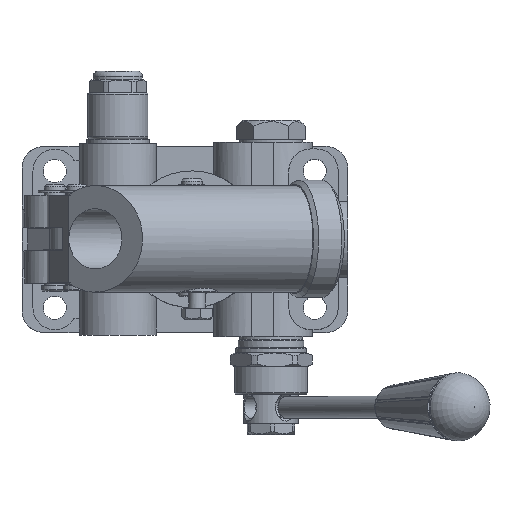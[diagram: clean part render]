
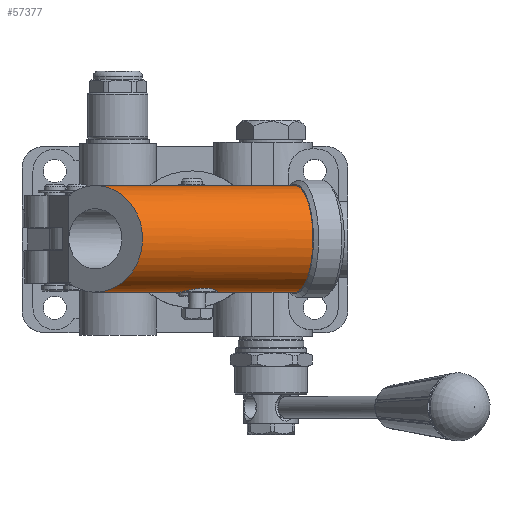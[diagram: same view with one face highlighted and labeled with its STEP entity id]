
A CAD part, top view. The second image highlights one B-rep face of the part: STEP entity #57377.
In plain terms, the highlighted cylindrical face has radius 19.48 mm (diameter 38.961 mm), a partial arc.
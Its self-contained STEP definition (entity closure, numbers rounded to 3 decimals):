
#126=ELLIPSE('',#60516,20.731,19.481);
#127=ELLIPSE('',#60521,20.731,19.481);
#128=ELLIPSE('',#60524,20.731,19.481);
#129=ELLIPSE('',#60527,22.494,19.481);
#130=ELLIPSE('',#60530,20.731,19.481);
#423=B_SPLINE_CURVE_WITH_KNOTS('',3,(#87343,#87344,#87345,#87346,#87347,
#87348),.UNSPECIFIED.,.F.,.F.,(4,1,1,4),(0.039,0.043,
0.045,0.047),.UNSPECIFIED.);
#424=B_SPLINE_CURVE_WITH_KNOTS('',3,(#87350,#87351,#87352,#87353,#87354),
 .UNSPECIFIED.,.F.,.F.,(4,1,4),(0.,0.004,0.009),
 .UNSPECIFIED.);
#425=B_SPLINE_CURVE_WITH_KNOTS('',3,(#87358,#87359,#87360,#87361,#87362),
 .UNSPECIFIED.,.F.,.F.,(4,1,4),(0.032,0.035,0.039),
 .UNSPECIFIED.);
#426=B_SPLINE_CURVE_WITH_KNOTS('',3,(#87364,#87365,#87366,#87367,#87368,
#87369,#87370),.UNSPECIFIED.,.F.,.F.,(4,1,1,1,4),(0.015,0.019,
0.024,0.028,0.032),.UNSPECIFIED.);
#427=B_SPLINE_CURVE_WITH_KNOTS('',3,(#87372,#87373,#87374,#87375,#87376),
 .UNSPECIFIED.,.F.,.F.,(4,1,4),(0.009,0.012,
0.015),.UNSPECIFIED.);
#5124=LINE('',#87310,#9835);
#5125=LINE('',#87311,#9836);
#5129=LINE('',#87321,#9840);
#5130=LINE('',#87323,#9841);
#5132=LINE('',#87329,#9843);
#5133=LINE('',#87333,#9844);
#5136=LINE('',#87341,#9847);
#9835=VECTOR('',#71456,1000.);
#9836=VECTOR('',#71457,1000.);
#9840=VECTOR('',#71467,1000.);
#9841=VECTOR('',#71468,1000.);
#9843=VECTOR('',#71476,1000.);
#9844=VECTOR('',#71483,1000.);
#9847=VECTOR('',#71492,1000.);
#10212=CYLINDRICAL_SURFACE('',#60534,19.481);
#21981=ORIENTED_EDGE('',*,*,#27961,.F.);
#21982=ORIENTED_EDGE('',*,*,#27960,.T.);
#21983=ORIENTED_EDGE('',*,*,#27957,.T.);
#21984=ORIENTED_EDGE('',*,*,#27956,.T.);
#21985=ORIENTED_EDGE('',*,*,#27955,.F.);
#21986=ORIENTED_EDGE('',*,*,#27953,.T.);
#21987=ORIENTED_EDGE('',*,*,#27952,.F.);
#21988=ORIENTED_EDGE('',*,*,#27962,.F.);
#21989=ORIENTED_EDGE('',*,*,#27965,.F.);
#21990=ORIENTED_EDGE('',*,*,#27966,.F.);
#21991=ORIENTED_EDGE('',*,*,#27967,.F.);
#21992=ORIENTED_EDGE('',*,*,#27963,.F.);
#21993=ORIENTED_EDGE('',*,*,#27951,.F.);
#21994=ORIENTED_EDGE('',*,*,#27949,.F.);
#21995=ORIENTED_EDGE('',*,*,#27946,.T.);
#21996=ORIENTED_EDGE('',*,*,#27943,.T.);
#21997=ORIENTED_EDGE('',*,*,#27945,.T.);
#21998=ORIENTED_EDGE('',*,*,#27941,.F.);
#27941=EDGE_CURVE('',#31958,#31959,#126,.T.);
#27943=EDGE_CURVE('',#31960,#31961,#32891,.T.);
#27945=EDGE_CURVE('',#31961,#31959,#5124,.F.);
#27946=EDGE_CURVE('',#31962,#31960,#5125,.T.);
#27949=EDGE_CURVE('',#31962,#31963,#127,.T.);
#27951=EDGE_CURVE('',#31963,#31965,#5129,.F.);
#27952=EDGE_CURVE('',#31965,#31964,#5130,.F.);
#27953=EDGE_CURVE('',#31966,#31964,#128,.T.);
#27955=EDGE_CURVE('',#31966,#31939,#5132,.F.);
#27956=EDGE_CURVE('',#31940,#31939,#129,.T.);
#27957=EDGE_CURVE('',#31967,#31940,#5133,.F.);
#27960=EDGE_CURVE('',#31968,#31967,#130,.T.);
#27961=EDGE_CURVE('',#31968,#31958,#5136,.T.);
#27962=EDGE_CURVE('',#31969,#31965,#423,.T.);
#27963=EDGE_CURVE('',#31965,#31970,#424,.T.);
#27965=EDGE_CURVE('',#31971,#31969,#425,.T.);
#27966=EDGE_CURVE('',#31972,#31971,#426,.T.);
#27967=EDGE_CURVE('',#31970,#31972,#427,.T.);
#31939=VERTEX_POINT('',#87241);
#31940=VERTEX_POINT('',#87243);
#31958=VERTEX_POINT('',#87300);
#31959=VERTEX_POINT('',#87302);
#31960=VERTEX_POINT('',#87306);
#31961=VERTEX_POINT('',#87307);
#31962=VERTEX_POINT('',#87312);
#31963=VERTEX_POINT('',#87316);
#31964=VERTEX_POINT('',#87320);
#31965=VERTEX_POINT('',#87322);
#31966=VERTEX_POINT('',#87326);
#31967=VERTEX_POINT('',#87334);
#31968=VERTEX_POINT('',#87338);
#31969=VERTEX_POINT('',#87349);
#31970=VERTEX_POINT('',#87355);
#31971=VERTEX_POINT('',#87363);
#31972=VERTEX_POINT('',#87371);
#32891=CIRCLE('',#60518,19.481);
#35952=EDGE_LOOP('',(#21981,#21982,#21983,#21984,#21985,#21986,#21987,#21988,
#21989,#21990,#21991,#21992,#21993,#21994,#21995,#21996,#21997,#21998));
#39031=FACE_BOUND('',#35952,.T.);
#57377=ADVANCED_FACE('',(#39031),#10212,.T.);
#60516=AXIS2_PLACEMENT_3D('',#87301,#71446,#71447);
#60518=AXIS2_PLACEMENT_3D('',#87305,#71451,#71452);
#60521=AXIS2_PLACEMENT_3D('',#87317,#71462,#71463);
#60524=AXIS2_PLACEMENT_3D('',#87325,#71471,#71472);
#60527=AXIS2_PLACEMENT_3D('',#87331,#71479,#71480);
#60530=AXIS2_PLACEMENT_3D('',#87339,#71488,#71489);
#60534=AXIS2_PLACEMENT_3D('',#87357,#71497,#71498);
#71446=DIRECTION('',(-0.767,0.,0.642));
#71447=DIRECTION('',(0.642,0.,0.767));
#71451=DIRECTION('',(-0.94,0.,0.341));
#71452=DIRECTION('',(0.341,0.,0.94));
#71456=DIRECTION('',(0.94,0.,-0.341));
#71457=DIRECTION('',(0.94,0.,-0.341));
#71462=DIRECTION('',(-0.767,0.,0.642));
#71463=DIRECTION('',(0.642,0.,0.767));
#71467=DIRECTION('',(0.94,0.,-0.341));
#71468=DIRECTION('',(0.94,0.,-0.341));
#71471=DIRECTION('',(-1.,0.,-0.001));
#71472=DIRECTION('',(0.001,0.,-1.));
#71476=DIRECTION('',(0.94,0.,-0.341));
#71479=DIRECTION('',(0.644,0.,-0.765));
#71480=DIRECTION('',(0.765,0.,0.644));
#71483=DIRECTION('',(0.94,0.,-0.341));
#71488=DIRECTION('',(-1.,0.,-0.001));
#71489=DIRECTION('',(0.001,0.,-1.));
#71492=DIRECTION('',(0.94,0.,-0.341));
#71497=DIRECTION('',(0.94,0.,-0.341));
#71498=DIRECTION('',(-0.341,0.,-0.94));
#87241=CARTESIAN_POINT('',(-45.028,-15.984,138.404));
#87243=CARTESIAN_POINT('',(-45.028,15.984,138.404));
#87300=CARTESIAN_POINT('',(34.048,17.982,113.613));
#87301=CARTESIAN_POINT('',(39.166,0.,119.728));
#87302=CARTESIAN_POINT('',(26.884,7.492,105.053));
#87305=CARTESIAN_POINT('',(37.659,0.,120.274));
#87306=CARTESIAN_POINT('',(31.531,-7.493,103.368));
#87307=CARTESIAN_POINT('',(31.531,7.492,103.368));
#87310=CARTESIAN_POINT('',(-47.361,7.492,131.967));
#87311=CARTESIAN_POINT('',(-47.361,-7.493,131.967));
#87312=CARTESIAN_POINT('',(26.884,-7.493,105.053));
#87316=CARTESIAN_POINT('',(34.048,-17.982,113.613));
#87317=CARTESIAN_POINT('',(39.166,0.,119.728));
#87320=CARTESIAN_POINT('',(-14.09,-17.982,131.064));
#87321=CARTESIAN_POINT('',(-43.786,-17.982,141.829));
#87322=CARTESIAN_POINT('',(-0.583,-17.982,126.167));
#87323=CARTESIAN_POINT('',(-43.786,-17.982,141.829));
#87325=CARTESIAN_POINT('',(-14.1,0.,139.037));
#87326=CARTESIAN_POINT('',(-14.085,-15.984,127.187));
#87329=CARTESIAN_POINT('',(-45.028,-15.984,138.404));
#87331=CARTESIAN_POINT('',(-35.189,0.,146.682));
#87333=CARTESIAN_POINT('',(-45.028,15.984,138.404));
#87334=CARTESIAN_POINT('',(-14.085,15.984,127.187));
#87338=CARTESIAN_POINT('',(-14.09,17.982,131.064));
#87339=CARTESIAN_POINT('',(-14.1,0.,139.037));
#87341=CARTESIAN_POINT('',(-43.786,17.982,141.829));
#87343=CARTESIAN_POINT('',(-5.498,-19.231,132.611));
#87344=CARTESIAN_POINT('',(-5.384,-19.021,131.189));
#87345=CARTESIAN_POINT('',(-4.596,-18.538,129.127));
#87346=CARTESIAN_POINT('',(-2.534,-18.071,127.097));
#87347=CARTESIAN_POINT('',(-1.27,-17.982,126.416));
#87348=CARTESIAN_POINT('',(-0.583,-17.982,126.167));
#87349=CARTESIAN_POINT('',(-5.498,-19.231,132.611));
#87350=CARTESIAN_POINT('',(-0.583,-17.982,126.167));
#87351=CARTESIAN_POINT('',(0.788,-17.982,125.67));
#87352=CARTESIAN_POINT('',(3.747,-18.372,125.509));
#87353=CARTESIAN_POINT('',(6.325,-19.022,126.951));
#87354=CARTESIAN_POINT('',(7.319,-19.231,127.965));
#87355=CARTESIAN_POINT('',(7.319,-19.231,127.965));
#87357=CARTESIAN_POINT('',(-41.233,0.,148.873));
#87358=CARTESIAN_POINT('',(-3.379,-19.231,138.458));
#87359=CARTESIAN_POINT('',(-4.127,-19.388,137.695));
#87360=CARTESIAN_POINT('',(-5.292,-19.574,135.848));
#87361=CARTESIAN_POINT('',(-5.583,-19.387,133.668));
#87362=CARTESIAN_POINT('',(-5.498,-19.231,132.611));
#87363=CARTESIAN_POINT('',(-3.379,-19.231,138.458));
#87364=CARTESIAN_POINT('',(9.439,-19.231,133.811));
#87365=CARTESIAN_POINT('',(9.324,-19.02,135.243));
#87366=CARTESIAN_POINT('',(8.282,-18.374,137.969));
#87367=CARTESIAN_POINT('',(4.678,-17.786,140.661));
#87368=CARTESIAN_POINT('',(0.173,-18.373,140.911));
#87369=CARTESIAN_POINT('',(-2.372,-19.019,139.484));
#87370=CARTESIAN_POINT('',(-3.379,-19.231,138.458));
#87371=CARTESIAN_POINT('',(9.439,-19.231,133.811));
#87372=CARTESIAN_POINT('',(7.319,-19.231,127.965));
#87373=CARTESIAN_POINT('',(8.058,-19.386,128.718));
#87374=CARTESIAN_POINT('',(9.234,-19.574,130.573));
#87375=CARTESIAN_POINT('',(9.524,-19.388,132.748));
#87376=CARTESIAN_POINT('',(9.439,-19.231,133.811));
